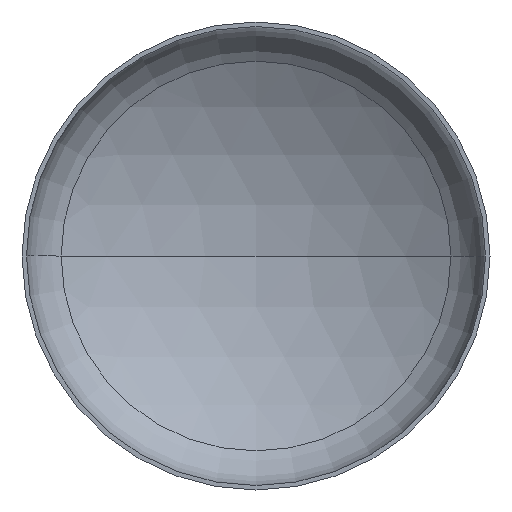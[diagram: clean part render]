
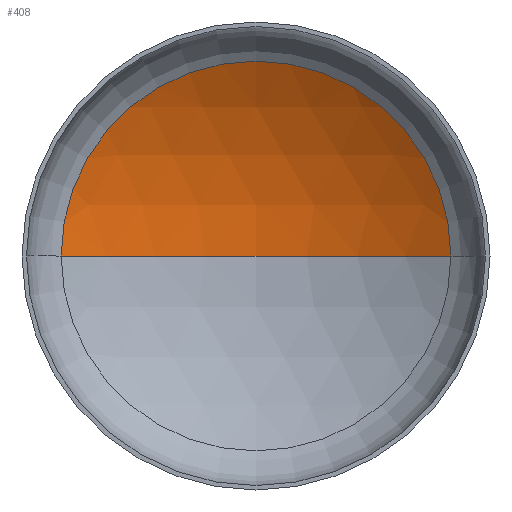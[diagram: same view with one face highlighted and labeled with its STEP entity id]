
A CAD part, front view. The second image highlights one B-rep face of the part: STEP entity #408.
In plain terms, the highlighted spherical face has radius 1760 mm.
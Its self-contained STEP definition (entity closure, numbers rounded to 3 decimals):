
#19 = EDGE_LOOP ( 'NONE', ( #80, #52, #178 ) ) ;
#40 = DIRECTION ( 'NONE',  ( 0., 0., -1. ) ) ;
#41 = VERTEX_POINT ( 'NONE', #371 ) ;
#42 = AXIS2_PLACEMENT_3D ( 'NONE', #187, #189, #376 ) ;
#46 = AXIS2_PLACEMENT_3D ( 'NONE', #215, #202, #194 ) ;
#47 = AXIS2_PLACEMENT_3D ( 'NONE', #298, #296, #293 ) ;
#52 = ORIENTED_EDGE ( 'NONE', *, *, #96, .T. ) ;
#80 = ORIENTED_EDGE ( 'NONE', *, *, #98, .F. ) ;
#86 = FACE_OUTER_BOUND ( 'NONE', #19, .T. ) ;
#94 = EDGE_CURVE ( 'NONE', #338, #152, #206, .T. ) ;
#96 = EDGE_CURVE ( 'NONE', #41, #338, #380, .T. ) ;
#98 = EDGE_CURVE ( 'NONE', #41, #152, #315, .T. ) ;
#123 = DIRECTION ( 'NONE',  ( -1., 0., 0. ) ) ;
#152 = VERTEX_POINT ( 'NONE', #233 ) ;
#178 = ORIENTED_EDGE ( 'NONE', *, *, #94, .T. ) ;
#187 = CARTESIAN_POINT ( 'NONE',  ( 0., -1142.551, 0. ) ) ;
#189 = DIRECTION ( 'NONE',  ( 0., 0., 1. ) ) ;
#194 = DIRECTION ( 'NONE',  ( -1., 0., 0. ) ) ;
#201 = SPHERICAL_SURFACE ( 'NONE', #282, 1760. ) ;
#202 = DIRECTION ( 'NONE',  ( 0., 0., -1. ) ) ;
#206 = CIRCLE ( 'NONE', #47, 915.944 ) ;
#215 = CARTESIAN_POINT ( 'NONE',  ( 0., -1142.551, 0. ) ) ;
#233 = CARTESIAN_POINT ( 'NONE',  ( -915.944, 360.329, 0. ) ) ;
#282 = AXIS2_PLACEMENT_3D ( 'NONE', #359, #40, #123 ) ;
#293 = DIRECTION ( 'NONE',  ( 1., 0., 0. ) ) ;
#296 = DIRECTION ( 'NONE',  ( 0., -1., 0. ) ) ;
#298 = CARTESIAN_POINT ( 'NONE',  ( 0., 360.329, 0. ) ) ;
#306 = CARTESIAN_POINT ( 'NONE',  ( 915.944, 360.329, 0. ) ) ;
#315 = CIRCLE ( 'NONE', #42, 1760. ) ;
#338 = VERTEX_POINT ( 'NONE', #306 ) ;
#359 = CARTESIAN_POINT ( 'NONE',  ( 0., -1142.551, 0. ) ) ;
#371 = CARTESIAN_POINT ( 'NONE',  ( 0., 617.449, 0. ) ) ;
#376 = DIRECTION ( 'NONE',  ( 1., 0., 0. ) ) ;
#380 = CIRCLE ( 'NONE', #46, 1760. ) ;
#408 = ADVANCED_FACE ( 'NONE', ( #86 ), #201, .F. ) ;
